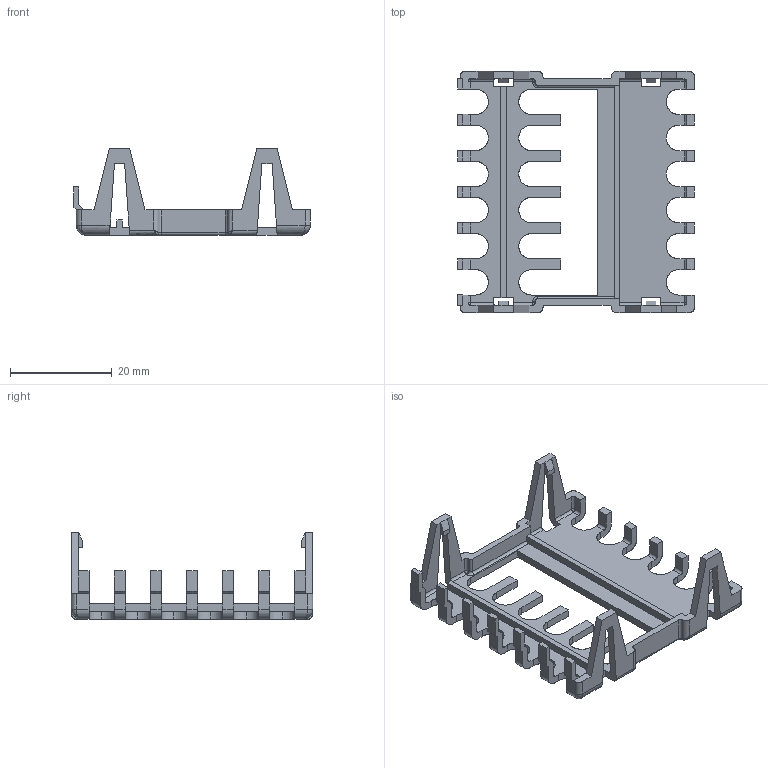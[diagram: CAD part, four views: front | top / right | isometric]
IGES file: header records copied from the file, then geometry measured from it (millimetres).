
Start section: SolidWorks IGES file using analytic representation for surfaces
Bounding box: 46.5 x 47.5 x 17 mm (x, y, z)
Surface area: 5327.5 mm2 (no closed solid volume)
Topology: 0 solids, 0 shells, 304 faces, 2788 edges, 2774 vertices
Faces by surface type: bspline 210, revolution 94
